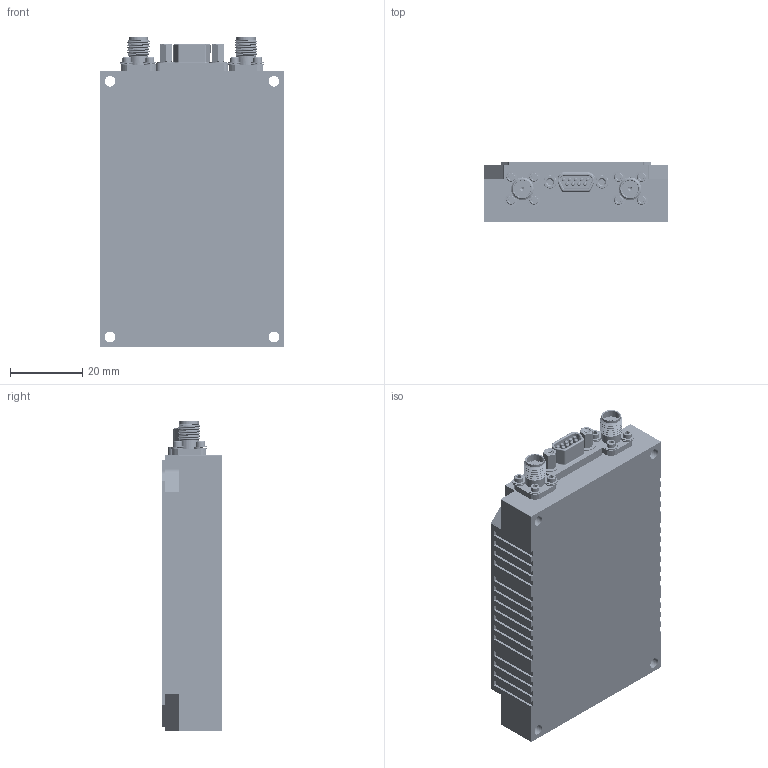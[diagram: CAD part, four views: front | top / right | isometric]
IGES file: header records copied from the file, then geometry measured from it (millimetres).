
Start section: SolidWorks IGES file using analytic representation for surfaces
Global section: file name: \\nuwaves-file01\Allegro_Master_Library\Solidworks_Library\PRODUCTS - 2012\A6012-1100 - MOPA-SOPA\GEN II\12B01A MODEL.IGS; native system: SolidWorks 2012; preprocessor: SolidWorks 2012; author: bill.landers; date: 150707.085659; units: inch
Bounding box: 50.8 x 16.59 x 85.7 mm (x, y, z)
Surface area: 33483.4 mm2 (no closed solid volume)
Topology: 0 solids, 0 shells, 5305 faces, 63971 edges, 63878 vertices
Faces by surface type: bspline 3348, revolution 1957
